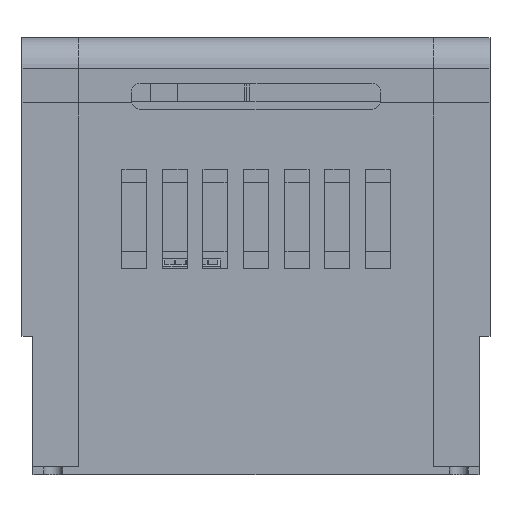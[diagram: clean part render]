
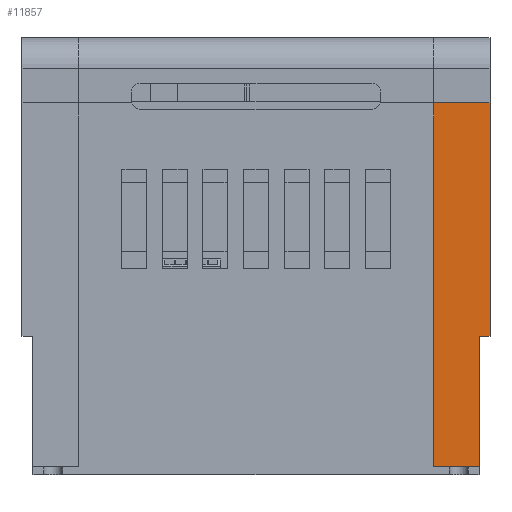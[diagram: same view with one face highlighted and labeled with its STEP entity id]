
A CAD part, front view. The second image highlights one B-rep face of the part: STEP entity #11857.
In plain terms, the highlighted planar face has unit normal (0, -1, 0).
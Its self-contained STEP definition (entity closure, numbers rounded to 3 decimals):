
#6102 = PLANE('',#6103);
#6103 = AXIS2_PLACEMENT_3D('',#6104,#6105,#6106);
#6104 = CARTESIAN_POINT('',(0.,0.,119.1));
#6105 = DIRECTION('',(0.,0.,1.));
#6106 = DIRECTION('',(1.,0.,0.));
#7481 = PLANE('',#7482);
#7482 = AXIS2_PLACEMENT_3D('',#7483,#7484,#7485);
#7483 = CARTESIAN_POINT('',(0.,127.5,2.5));
#7484 = DIRECTION('',(0.,0.,1.));
#7485 = DIRECTION('',(1.,0.,0.));
#7509 = PLANE('',#7510);
#7510 = AXIS2_PLACEMENT_3D('',#7511,#7512,#7513);
#7511 = CARTESIAN_POINT('',(57.,0.,2.5));
#7512 = DIRECTION('',(1.,0.,0.));
#7513 = DIRECTION('',(0.,0.,-1.));
#8152 = PLANE('',#8153);
#8153 = AXIS2_PLACEMENT_3D('',#8154,#8155,#8156);
#8154 = CARTESIAN_POINT('',(75.,0.,140.));
#8155 = DIRECTION('',(-1.,0.,0.));
#8156 = DIRECTION('',(0.,0.,1.));
#8542 = PLANE('',#8543);
#8543 = AXIS2_PLACEMENT_3D('',#8544,#8545,#8546);
#8544 = CARTESIAN_POINT('',(71.5,255.,44.278));
#8545 = DIRECTION('',(1.,0.,0.));
#8546 = DIRECTION('',(0.,0.,-1.));
#10143 = EDGE_CURVE('',#10144,#10146,#10148,.T.);
#10144 = VERTEX_POINT('',#10145);
#10145 = CARTESIAN_POINT('',(75.,15.,44.278));
#10146 = VERTEX_POINT('',#10147);
#10147 = CARTESIAN_POINT('',(71.5,15.,44.278));
#10148 = SURFACE_CURVE('',#10149,(#10153,#10165),.PCURVE_S1.);
#10149 = LINE('',#10150,#10151);
#10150 = CARTESIAN_POINT('',(57.,15.,44.278));
#10151 = VECTOR('',#10152,1.);
#10152 = DIRECTION('',(-1.,0.,0.));
#10153 = PCURVE('',#10154,#10159);
#10154 = PLANE('',#10155);
#10155 = AXIS2_PLACEMENT_3D('',#10156,#10157,#10158);
#10156 = CARTESIAN_POINT('',(65.,6.996,44.278));
#10157 = DIRECTION('',(0.,0.,1.));
#10158 = DIRECTION('',(1.,0.,0.));
#10159 = DEFINITIONAL_REPRESENTATION('',(#10160),#10164);
#10160 = LINE('',#10161,#10162);
#10161 = CARTESIAN_POINT('',(-8.,8.004));
#10162 = VECTOR('',#10163,1.);
#10163 = DIRECTION('',(-1.,0.));
#10164 = ( GEOMETRIC_REPRESENTATION_CONTEXT(2) 
PARAMETRIC_REPRESENTATION_CONTEXT() REPRESENTATION_CONTEXT('2D SPACE',''
  ) );
#10165 = PCURVE('',#10166,#10171);
#10166 = PLANE('',#10167);
#10167 = AXIS2_PLACEMENT_3D('',#10168,#10169,#10170);
#10168 = CARTESIAN_POINT('',(57.,15.,2.5));
#10169 = DIRECTION('',(0.,-1.,0.));
#10170 = DIRECTION('',(0.,0.,-1.));
#10171 = DEFINITIONAL_REPRESENTATION('',(#10172),#10176);
#10172 = LINE('',#10173,#10174);
#10173 = CARTESIAN_POINT('',(-41.778,0.));
#10174 = VECTOR('',#10175,1.);
#10175 = DIRECTION('',(0.,-1.));
#10176 = ( GEOMETRIC_REPRESENTATION_CONTEXT(2) 
PARAMETRIC_REPRESENTATION_CONTEXT() REPRESENTATION_CONTEXT('2D SPACE',''
  ) );
#11386 = EDGE_CURVE('',#11387,#10146,#11389,.T.);
#11387 = VERTEX_POINT('',#11388);
#11388 = CARTESIAN_POINT('',(71.5,15.,2.5));
#11389 = SURFACE_CURVE('',#11390,(#11394,#11401),.PCURVE_S1.);
#11390 = LINE('',#11391,#11392);
#11391 = CARTESIAN_POINT('',(71.5,15.,2.5));
#11392 = VECTOR('',#11393,1.);
#11393 = DIRECTION('',(0.,0.,1.));
#11394 = PCURVE('',#8542,#11395);
#11395 = DEFINITIONAL_REPRESENTATION('',(#11396),#11400);
#11396 = LINE('',#11397,#11398);
#11397 = CARTESIAN_POINT('',(41.778,-240.));
#11398 = VECTOR('',#11399,1.);
#11399 = DIRECTION('',(-1.,0.));
#11400 = ( GEOMETRIC_REPRESENTATION_CONTEXT(2) 
PARAMETRIC_REPRESENTATION_CONTEXT() REPRESENTATION_CONTEXT('2D SPACE',''
  ) );
#11401 = PCURVE('',#10166,#11402);
#11402 = DEFINITIONAL_REPRESENTATION('',(#11403),#11407);
#11403 = LINE('',#11404,#11405);
#11404 = CARTESIAN_POINT('',(0.,14.5));
#11405 = VECTOR('',#11406,1.);
#11406 = DIRECTION('',(-1.,0.));
#11407 = ( GEOMETRIC_REPRESENTATION_CONTEXT(2) 
PARAMETRIC_REPRESENTATION_CONTEXT() REPRESENTATION_CONTEXT('2D SPACE',''
  ) );
#11857 = ADVANCED_FACE('',(#11858),#10166,.T.);
#11858 = FACE_BOUND('',#11859,.T.);
#11859 = EDGE_LOOP('',(#11860,#11883,#11906,#11929,#11950,#11951));
#11860 = ORIENTED_EDGE('',*,*,#11861,.T.);
#11861 = EDGE_CURVE('',#10144,#11862,#11864,.T.);
#11862 = VERTEX_POINT('',#11863);
#11863 = CARTESIAN_POINT('',(75.,15.,119.1));
#11864 = SURFACE_CURVE('',#11865,(#11869,#11876),.PCURVE_S1.);
#11865 = LINE('',#11866,#11867);
#11866 = CARTESIAN_POINT('',(75.,15.,2.5));
#11867 = VECTOR('',#11868,1.);
#11868 = DIRECTION('',(0.,0.,1.));
#11869 = PCURVE('',#10166,#11870);
#11870 = DEFINITIONAL_REPRESENTATION('',(#11871),#11875);
#11871 = LINE('',#11872,#11873);
#11872 = CARTESIAN_POINT('',(0.,18.));
#11873 = VECTOR('',#11874,1.);
#11874 = DIRECTION('',(-1.,0.));
#11875 = ( GEOMETRIC_REPRESENTATION_CONTEXT(2) 
PARAMETRIC_REPRESENTATION_CONTEXT() REPRESENTATION_CONTEXT('2D SPACE',''
  ) );
#11876 = PCURVE('',#8152,#11877);
#11877 = DEFINITIONAL_REPRESENTATION('',(#11878),#11882);
#11878 = LINE('',#11879,#11880);
#11879 = CARTESIAN_POINT('',(-137.5,15.));
#11880 = VECTOR('',#11881,1.);
#11881 = DIRECTION('',(1.,0.));
#11882 = ( GEOMETRIC_REPRESENTATION_CONTEXT(2) 
PARAMETRIC_REPRESENTATION_CONTEXT() REPRESENTATION_CONTEXT('2D SPACE',''
  ) );
#11883 = ORIENTED_EDGE('',*,*,#11884,.T.);
#11884 = EDGE_CURVE('',#11862,#11885,#11887,.T.);
#11885 = VERTEX_POINT('',#11886);
#11886 = CARTESIAN_POINT('',(57.,15.,119.1));
#11887 = SURFACE_CURVE('',#11888,(#11892,#11899),.PCURVE_S1.);
#11888 = LINE('',#11889,#11890);
#11889 = CARTESIAN_POINT('',(57.,15.,119.1));
#11890 = VECTOR('',#11891,1.);
#11891 = DIRECTION('',(-1.,0.,0.));
#11892 = PCURVE('',#10166,#11893);
#11893 = DEFINITIONAL_REPRESENTATION('',(#11894),#11898);
#11894 = LINE('',#11895,#11896);
#11895 = CARTESIAN_POINT('',(-116.6,0.));
#11896 = VECTOR('',#11897,1.);
#11897 = DIRECTION('',(0.,-1.));
#11898 = ( GEOMETRIC_REPRESENTATION_CONTEXT(2) 
PARAMETRIC_REPRESENTATION_CONTEXT() REPRESENTATION_CONTEXT('2D SPACE',''
  ) );
#11899 = PCURVE('',#6102,#11900);
#11900 = DEFINITIONAL_REPRESENTATION('',(#11901),#11905);
#11901 = LINE('',#11902,#11903);
#11902 = CARTESIAN_POINT('',(57.,15.));
#11903 = VECTOR('',#11904,1.);
#11904 = DIRECTION('',(-1.,0.));
#11905 = ( GEOMETRIC_REPRESENTATION_CONTEXT(2) 
PARAMETRIC_REPRESENTATION_CONTEXT() REPRESENTATION_CONTEXT('2D SPACE',''
  ) );
#11906 = ORIENTED_EDGE('',*,*,#11907,.F.);
#11907 = EDGE_CURVE('',#11908,#11885,#11910,.T.);
#11908 = VERTEX_POINT('',#11909);
#11909 = CARTESIAN_POINT('',(57.,15.,2.5));
#11910 = SURFACE_CURVE('',#11911,(#11915,#11922),.PCURVE_S1.);
#11911 = LINE('',#11912,#11913);
#11912 = CARTESIAN_POINT('',(57.,15.,2.5));
#11913 = VECTOR('',#11914,1.);
#11914 = DIRECTION('',(0.,0.,1.));
#11915 = PCURVE('',#10166,#11916);
#11916 = DEFINITIONAL_REPRESENTATION('',(#11917),#11921);
#11917 = LINE('',#11918,#11919);
#11918 = CARTESIAN_POINT('',(0.,0.));
#11919 = VECTOR('',#11920,1.);
#11920 = DIRECTION('',(-1.,0.));
#11921 = ( GEOMETRIC_REPRESENTATION_CONTEXT(2) 
PARAMETRIC_REPRESENTATION_CONTEXT() REPRESENTATION_CONTEXT('2D SPACE',''
  ) );
#11922 = PCURVE('',#7509,#11923);
#11923 = DEFINITIONAL_REPRESENTATION('',(#11924),#11928);
#11924 = LINE('',#11925,#11926);
#11925 = CARTESIAN_POINT('',(0.,15.));
#11926 = VECTOR('',#11927,1.);
#11927 = DIRECTION('',(-1.,0.));
#11928 = ( GEOMETRIC_REPRESENTATION_CONTEXT(2) 
PARAMETRIC_REPRESENTATION_CONTEXT() REPRESENTATION_CONTEXT('2D SPACE',''
  ) );
#11929 = ORIENTED_EDGE('',*,*,#11930,.T.);
#11930 = EDGE_CURVE('',#11908,#11387,#11931,.T.);
#11931 = SURFACE_CURVE('',#11932,(#11936,#11943),.PCURVE_S1.);
#11932 = LINE('',#11933,#11934);
#11933 = CARTESIAN_POINT('',(57.,15.,2.5));
#11934 = VECTOR('',#11935,1.);
#11935 = DIRECTION('',(1.,0.,0.));
#11936 = PCURVE('',#10166,#11937);
#11937 = DEFINITIONAL_REPRESENTATION('',(#11938),#11942);
#11938 = LINE('',#11939,#11940);
#11939 = CARTESIAN_POINT('',(0.,0.));
#11940 = VECTOR('',#11941,1.);
#11941 = DIRECTION('',(0.,1.));
#11942 = ( GEOMETRIC_REPRESENTATION_CONTEXT(2) 
PARAMETRIC_REPRESENTATION_CONTEXT() REPRESENTATION_CONTEXT('2D SPACE',''
  ) );
#11943 = PCURVE('',#7481,#11944);
#11944 = DEFINITIONAL_REPRESENTATION('',(#11945),#11949);
#11945 = LINE('',#11946,#11947);
#11946 = CARTESIAN_POINT('',(57.,-112.5));
#11947 = VECTOR('',#11948,1.);
#11948 = DIRECTION('',(1.,0.));
#11949 = ( GEOMETRIC_REPRESENTATION_CONTEXT(2) 
PARAMETRIC_REPRESENTATION_CONTEXT() REPRESENTATION_CONTEXT('2D SPACE',''
  ) );
#11950 = ORIENTED_EDGE('',*,*,#11386,.T.);
#11951 = ORIENTED_EDGE('',*,*,#10143,.F.);
